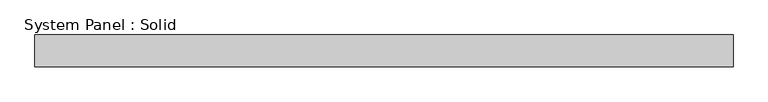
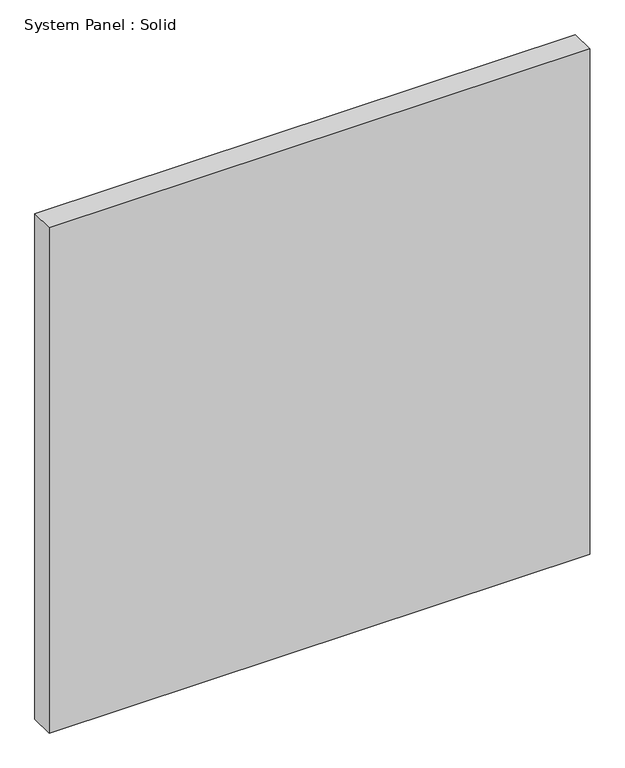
"""IFC4 building model written with IfcOpenShell, lengths in millimetres: plate geometry, System Panel : Solid."""

from ifc_helpers import new_model, si_unit, origin, origin_with_axes, place, context, project, spatial, polyline, outline, extrude, source, transform, mapped, element, save


def system_panel_solid_b23a9ee6(model_context):
    return source(origin(), model_context, "Body", "SweptSolid", [
        extrude(outline(polyline([(663.0142443, -49.5), (-663.0142443, -49.5), (-663.0142443, 10.5), (663.0142443, 10.5), (663.0142443, -49.5)])), origin_with_axes(), (0.0, 0.0, 1.0), 1310.0),
    ])


if __name__ == "__main__":
    model = new_model("IFC4")
    model_context = context("Model", 3, world=origin())
    ifc_project = project(units=[si_unit("LENGTHUNIT", "METRE", prefix="MILLI")], contexts=[model_context])
    site = spatial("IfcSite", under=ifc_project)
    building = spatial("IfcBuilding", under=site)
    placement = place(None, origin())
    system_panel_solid_shape = system_panel_solid_b23a9ee6(model_context)
    element("IfcPlate", 1, ObjectType="System Panel : Solid", at=placement, inside=building, context=model_context, shape_type="MappedRepresentation", body=[
        mapped(system_panel_solid_shape, transform((0.0, 0.0, 0.0), x_axis=(1.0, 0.0, 0.0), y_axis=(0.0, 1.0, 0.0), z_axis=(0.0, 0.0, 1.0))),
    ])
    save(model, "model.ifc")
